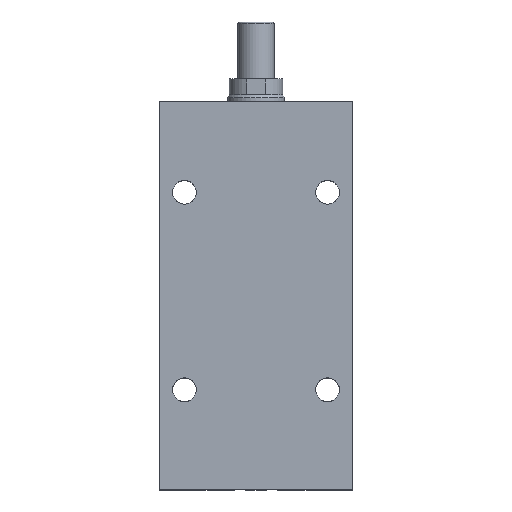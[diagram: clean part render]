
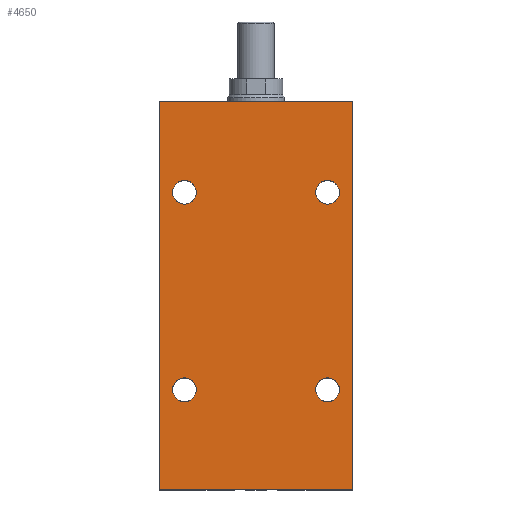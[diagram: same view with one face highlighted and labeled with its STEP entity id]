
A CAD part, top view. The second image highlights one B-rep face of the part: STEP entity #4650.
In plain terms, the highlighted planar face has unit normal (0, 0, 1).
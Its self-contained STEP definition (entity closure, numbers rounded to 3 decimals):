
#45 = VERTEX_POINT ( 'NONE', #804 ) ;
#136 = VECTOR ( 'NONE', #3924, 1000. ) ;
#142 = ORIENTED_EDGE ( 'NONE', *, *, #3535, .F. ) ;
#216 = ORIENTED_EDGE ( 'NONE', *, *, #2051, .F. ) ;
#258 = LINE ( 'NONE', #3284, #136 ) ;
#305 = CARTESIAN_POINT ( 'NONE',  ( -36.75, 44., 31.5 ) ) ;
#341 = ORIENTED_EDGE ( 'NONE', *, *, #3993, .T. ) ;
#347 = CARTESIAN_POINT ( 'NONE',  ( 42.5, 71., 31.5 ) ) ;
#378 = CARTESIAN_POINT ( 'NONE',  ( -36.75, 131., 31.5 ) ) ;
#392 = CIRCLE ( 'NONE', #1427, 5.25 ) ;
#429 = VERTEX_POINT ( 'NONE', #3600 ) ;
#450 = DIRECTION ( 'NONE',  ( 0., 0., 1. ) ) ;
#467 = VECTOR ( 'NONE', #1584, 1000. ) ;
#496 = CARTESIAN_POINT ( 'NONE',  ( -31.5, 131., 31.5 ) ) ;
#799 = EDGE_CURVE ( 'NONE', #45, #4209, #1730, .T. ) ;
#804 = CARTESIAN_POINT ( 'NONE',  ( -26.25, 131., 31.5 ) ) ;
#818 = ORIENTED_EDGE ( 'NONE', *, *, #799, .F. ) ;
#835 = CARTESIAN_POINT ( 'NONE',  ( -26.25, 44., 31.5 ) ) ;
#893 = FACE_BOUND ( 'NONE', #2232, .T. ) ;
#968 = EDGE_CURVE ( 'NONE', #1423, #429, #1280, .T. ) ;
#1082 = DIRECTION ( 'NONE',  ( 1., 0., 0. ) ) ;
#1106 = CIRCLE ( 'NONE', #4426, 5.25 ) ;
#1280 = CIRCLE ( 'NONE', #1652, 5.25 ) ;
#1423 = VERTEX_POINT ( 'NONE', #3547 ) ;
#1427 = AXIS2_PLACEMENT_3D ( 'NONE', #2279, #3051, #3102 ) ;
#1439 = VERTEX_POINT ( 'NONE', #1579 ) ;
#1474 = EDGE_LOOP ( 'NONE', ( #142, #3577 ) ) ;
#1493 = DIRECTION ( 'NONE',  ( 1., 0., 0. ) ) ;
#1533 = EDGE_LOOP ( 'NONE', ( #1742, #3062 ) ) ;
#1579 = CARTESIAN_POINT ( 'NONE',  ( 42.5, 171., 31.5 ) ) ;
#1584 = DIRECTION ( 'NONE',  ( 1., 0., 0. ) ) ;
#1652 = AXIS2_PLACEMENT_3D ( 'NONE', #4325, #4310, #4353 ) ;
#1654 = LINE ( 'NONE', #1892, #2245 ) ;
#1692 = EDGE_CURVE ( 'NONE', #3105, #3300, #3966, .T. ) ;
#1705 = EDGE_LOOP ( 'NONE', ( #341, #2052, #3224, #1714 ) ) ;
#1714 = ORIENTED_EDGE ( 'NONE', *, *, #2986, .T. ) ;
#1730 = CIRCLE ( 'NONE', #2444, 5.25 ) ;
#1742 = ORIENTED_EDGE ( 'NONE', *, *, #2903, .F. ) ;
#1756 = CIRCLE ( 'NONE', #3658, 5.25 ) ;
#1892 = CARTESIAN_POINT ( 'NONE',  ( -42.5, 0., 31.5 ) ) ;
#1893 = CARTESIAN_POINT ( 'NONE',  ( -31.5, 44., 31.5 ) ) ;
#2016 = FACE_OUTER_BOUND ( 'NONE', #1705, .T. ) ;
#2046 = CARTESIAN_POINT ( 'NONE',  ( 31.5, 44., 31.5 ) ) ;
#2051 = EDGE_CURVE ( 'NONE', #4209, #45, #3047, .T. ) ;
#2052 = ORIENTED_EDGE ( 'NONE', *, *, #4220, .F. ) ;
#2142 = DIRECTION ( 'NONE',  ( 0., 0., 1. ) ) ;
#2194 = DIRECTION ( 'NONE',  ( -1., 0., 0. ) ) ;
#2232 = EDGE_LOOP ( 'NONE', ( #818, #216 ) ) ;
#2245 = VECTOR ( 'NONE', #1082, 1000. ) ;
#2248 = VERTEX_POINT ( 'NONE', #3582 ) ;
#2279 = CARTESIAN_POINT ( 'NONE',  ( 31.5, 131., 31.5 ) ) ;
#2302 = LINE ( 'NONE', #347, #4140 ) ;
#2318 = EDGE_CURVE ( 'NONE', #429, #1423, #1106, .T. ) ;
#2336 = EDGE_CURVE ( 'NONE', #4154, #3371, #2607, .T. ) ;
#2365 = VERTEX_POINT ( 'NONE', #4755 ) ;
#2444 = AXIS2_PLACEMENT_3D ( 'NONE', #2818, #2978, #3244 ) ;
#2574 = DIRECTION ( 'NONE',  ( 1., 0., 0. ) ) ;
#2575 = AXIS2_PLACEMENT_3D ( 'NONE', #496, #450, #4672 ) ;
#2597 = CARTESIAN_POINT ( 'NONE',  ( -42.5, 71., 31.5 ) ) ;
#2607 = CIRCLE ( 'NONE', #4191, 5.25 ) ;
#2767 = AXIS2_PLACEMENT_3D ( 'NONE', #3884, #3878, #3871 ) ;
#2818 = CARTESIAN_POINT ( 'NONE',  ( -31.5, 131., 31.5 ) ) ;
#2843 = LINE ( 'NONE', #3814, #467 ) ;
#2903 = EDGE_CURVE ( 'NONE', #3371, #4154, #392, .T. ) ;
#2978 = DIRECTION ( 'NONE',  ( 0., 0., 1. ) ) ;
#2986 = EDGE_CURVE ( 'NONE', #4742, #2365, #258, .T. ) ;
#3047 = CIRCLE ( 'NONE', #2575, 5.25 ) ;
#3051 = DIRECTION ( 'NONE',  ( 0., 0., 1. ) ) ;
#3062 = ORIENTED_EDGE ( 'NONE', *, *, #2336, .F. ) ;
#3102 = DIRECTION ( 'NONE',  ( 1., 0., 0. ) ) ;
#3105 = VERTEX_POINT ( 'NONE', #305 ) ;
#3169 = FACE_BOUND ( 'NONE', #1474, .T. ) ;
#3195 = CARTESIAN_POINT ( 'NONE',  ( 26.25, 131., 31.5 ) ) ;
#3224 = ORIENTED_EDGE ( 'NONE', *, *, #3820, .F. ) ;
#3244 = DIRECTION ( 'NONE',  ( 1., 0., 0. ) ) ;
#3284 = CARTESIAN_POINT ( 'NONE',  ( -42.5, 71., 31.5 ) ) ;
#3300 = VERTEX_POINT ( 'NONE', #835 ) ;
#3371 = VERTEX_POINT ( 'NONE', #3446 ) ;
#3383 = DIRECTION ( 'NONE',  ( 0., 0., 1. ) ) ;
#3446 = CARTESIAN_POINT ( 'NONE',  ( 36.75, 131., 31.5 ) ) ;
#3457 = ORIENTED_EDGE ( 'NONE', *, *, #2318, .F. ) ;
#3467 = CARTESIAN_POINT ( 'NONE',  ( 31.5, 131., 31.5 ) ) ;
#3535 = EDGE_CURVE ( 'NONE', #3300, #3105, #1756, .T. ) ;
#3547 = CARTESIAN_POINT ( 'NONE',  ( 36.75, 44., 31.5 ) ) ;
#3577 = ORIENTED_EDGE ( 'NONE', *, *, #1692, .F. ) ;
#3582 = CARTESIAN_POINT ( 'NONE',  ( 42.5, 0., 31.5 ) ) ;
#3600 = CARTESIAN_POINT ( 'NONE',  ( 26.25, 44., 31.5 ) ) ;
#3658 = AXIS2_PLACEMENT_3D ( 'NONE', #1893, #3383, #1493 ) ;
#3681 = PLANE ( 'NONE',  #4056 ) ;
#3814 = CARTESIAN_POINT ( 'NONE',  ( -42.5, 171., 31.5 ) ) ;
#3820 = EDGE_CURVE ( 'NONE', #4742, #1439, #2843, .T. ) ;
#3871 = DIRECTION ( 'NONE',  ( 1., 0., 0. ) ) ;
#3878 = DIRECTION ( 'NONE',  ( 0., 0., 1. ) ) ;
#3884 = CARTESIAN_POINT ( 'NONE',  ( -31.5, 44., 31.5 ) ) ;
#3924 = DIRECTION ( 'NONE',  ( 0., -1., 0. ) ) ;
#3966 = CIRCLE ( 'NONE', #2767, 5.25 ) ;
#3993 = EDGE_CURVE ( 'NONE', #2365, #2248, #1654, .T. ) ;
#4046 = DIRECTION ( 'NONE',  ( 0., 0., 1. ) ) ;
#4056 = AXIS2_PLACEMENT_3D ( 'NONE', #2597, #4762, #2194 ) ;
#4135 = CARTESIAN_POINT ( 'NONE',  ( -42.5, 171., 31.5 ) ) ;
#4140 = VECTOR ( 'NONE', #4788, 1000. ) ;
#4154 = VERTEX_POINT ( 'NONE', #3195 ) ;
#4191 = AXIS2_PLACEMENT_3D ( 'NONE', #3467, #4046, #4393 ) ;
#4209 = VERTEX_POINT ( 'NONE', #378 ) ;
#4220 = EDGE_CURVE ( 'NONE', #1439, #2248, #2302, .T. ) ;
#4269 = ORIENTED_EDGE ( 'NONE', *, *, #968, .F. ) ;
#4310 = DIRECTION ( 'NONE',  ( 0., 0., 1. ) ) ;
#4325 = CARTESIAN_POINT ( 'NONE',  ( 31.5, 44., 31.5 ) ) ;
#4353 = DIRECTION ( 'NONE',  ( 1., 0., 0. ) ) ;
#4393 = DIRECTION ( 'NONE',  ( 1., 0., 0. ) ) ;
#4426 = AXIS2_PLACEMENT_3D ( 'NONE', #2046, #2142, #2574 ) ;
#4461 = EDGE_LOOP ( 'NONE', ( #4269, #3457 ) ) ;
#4531 = FACE_BOUND ( 'NONE', #1533, .T. ) ;
#4650 = ADVANCED_FACE ( 'NONE', ( #4531, #893, #4699, #3169, #2016 ), #3681, .F. ) ;
#4672 = DIRECTION ( 'NONE',  ( 1., 0., 0. ) ) ;
#4699 = FACE_BOUND ( 'NONE', #4461, .T. ) ;
#4742 = VERTEX_POINT ( 'NONE', #4135 ) ;
#4755 = CARTESIAN_POINT ( 'NONE',  ( -42.5, 0., 31.5 ) ) ;
#4762 = DIRECTION ( 'NONE',  ( 0., 0., -1. ) ) ;
#4788 = DIRECTION ( 'NONE',  ( 0., -1., 0. ) ) ;
